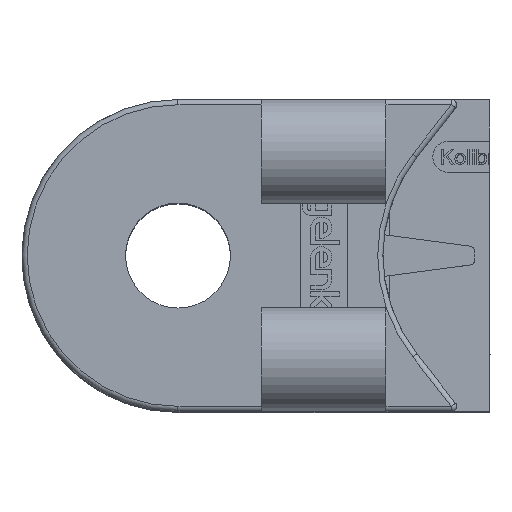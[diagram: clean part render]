
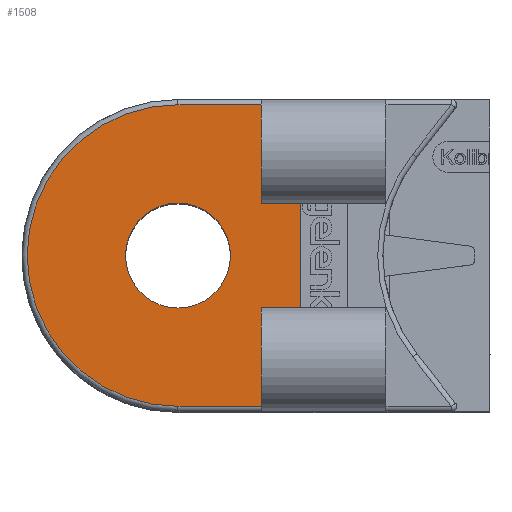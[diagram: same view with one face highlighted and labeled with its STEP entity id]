
A CAD part, top view. The second image highlights one B-rep face of the part: STEP entity #1508.
In plain terms, the highlighted planar face has unit normal (0, 0, 1).
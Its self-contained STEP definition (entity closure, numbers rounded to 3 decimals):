
#563=CARTESIAN_POINT('',(-5.747,-5.,3.));
#564=VERTEX_POINT('',#563);
#571=CARTESIAN_POINT('',(-9.5,-5.,3.));
#572=VERTEX_POINT('',#571);
#573=CARTESIAN_POINT('',(-9.5,-5.,3.));
#574=DIRECTION('',(1.0,0.0,0.0));
#575=VECTOR('',#574,3.753);
#576=LINE('',#573,#575);
#577=EDGE_CURVE('',#572,#564,#576,.T.);
#1179=CARTESIAN_POINT('',(-9.5,-14.5,3.));
#1180=VERTEX_POINT('',#1179);
#1181=CARTESIAN_POINT('',(-9.5,-14.5,3.));
#1182=DIRECTION('',(0.0,1.0,0.0));
#1183=VECTOR('',#1182,9.5);
#1184=LINE('',#1181,#1183);
#1185=EDGE_CURVE('',#1180,#572,#1184,.T.);
#1206=CARTESIAN_POINT('',(-5.747,5.,3.));
#1207=VERTEX_POINT('',#1206);
#1294=CARTESIAN_POINT('',(-9.5,5.,3.));
#1295=VERTEX_POINT('',#1294);
#1302=CARTESIAN_POINT('',(-5.747,5.,3.));
#1303=DIRECTION('',(-1.0,0.0,0.0));
#1304=VECTOR('',#1303,3.753);
#1305=LINE('',#1302,#1304);
#1306=EDGE_CURVE('',#1207,#1295,#1305,.T.);
#1324=CARTESIAN_POINT('',(-9.5,14.5,3.));
#1325=VERTEX_POINT('',#1324);
#1333=CARTESIAN_POINT('',(-9.5,5.,3.));
#1334=DIRECTION('',(0.0,1.0,0.0));
#1335=VECTOR('',#1334,9.5);
#1336=LINE('',#1333,#1335);
#1337=EDGE_CURVE('',#1295,#1325,#1336,.T.);
#1402=CARTESIAN_POINT('',(-17.5,-14.5,3.));
#1403=VERTEX_POINT('',#1402);
#1404=CARTESIAN_POINT('',(-9.5,-14.5,3.));
#1405=DIRECTION('',(-1.0,0.0,0.0));
#1406=VECTOR('',#1405,8.);
#1407=LINE('',#1404,#1406);
#1408=EDGE_CURVE('',#1180,#1403,#1407,.T.);
#1464=CARTESIAN_POINT('',(0.211,0.,3.));
#1465=DIRECTION('',(0.0,0.0,1.0));
#1466=DIRECTION('',(1.0,0.0,0.0));
#1467=AXIS2_PLACEMENT_3D('',#1464,#1465,#1466);
#1468=PLANE('',#1467);
#1469=ORIENTED_EDGE('',*,*,#1185,.T.);
#1470=ORIENTED_EDGE('',*,*,#577,.T.);
#1471=CARTESIAN_POINT('',(-5.747,-5.,3.));
#1472=DIRECTION('',(0.0,1.0,0.0));
#1473=VECTOR('',#1472,10.);
#1474=LINE('',#1471,#1473);
#1475=EDGE_CURVE('',#564,#1207,#1474,.T.);
#1476=ORIENTED_EDGE('',*,*,#1475,.T.);
#1477=ORIENTED_EDGE('',*,*,#1306,.T.);
#1478=ORIENTED_EDGE('',*,*,#1337,.T.);
#1479=CARTESIAN_POINT('',(-17.5,14.5,3.));
#1480=VERTEX_POINT('',#1479);
#1481=CARTESIAN_POINT('',(-17.5,14.5,3.));
#1482=DIRECTION('',(1.0,0.0,0.0));
#1483=VECTOR('',#1482,8.);
#1484=LINE('',#1481,#1483);
#1485=EDGE_CURVE('',#1480,#1325,#1484,.T.);
#1486=ORIENTED_EDGE('',*,*,#1485,.F.);
#1487=CARTESIAN_POINT('',(-17.5,0.,3.));
#1488=DIRECTION('',(0.0,0.0,-1.0));
#1489=DIRECTION('',(-1.0,0.0,0.0));
#1490=AXIS2_PLACEMENT_3D('',#1487,#1488,#1489);
#1491=CIRCLE('',#1490,14.5);
#1492=EDGE_CURVE('',#1403,#1480,#1491,.T.);
#1493=ORIENTED_EDGE('',*,*,#1492,.F.);
#1494=ORIENTED_EDGE('',*,*,#1408,.F.);
#1495=EDGE_LOOP('',(#1469,#1470,#1476,#1477,#1478,#1486,#1493,#1494));
#1496=FACE_OUTER_BOUND('',#1495,.T.);
#1497=CARTESIAN_POINT('',(-12.45,0.,3.));
#1498=VERTEX_POINT('',#1497);
#1499=CARTESIAN_POINT('',(-17.5,0.,3.));
#1500=DIRECTION('',(0.0,0.0,-1.0));
#1501=DIRECTION('',(-1.0,0.0,0.0));
#1502=AXIS2_PLACEMENT_3D('',#1499,#1500,#1501);
#1503=CIRCLE('',#1502,5.05);
#1504=EDGE_CURVE('',#1498,#1498,#1503,.T.);
#1505=ORIENTED_EDGE('',*,*,#1504,.T.);
#1506=EDGE_LOOP('',(#1505));
#1507=FACE_BOUND('',#1506,.T.);
#1508=ADVANCED_FACE('',(#1496,#1507),#1468,.T.);
